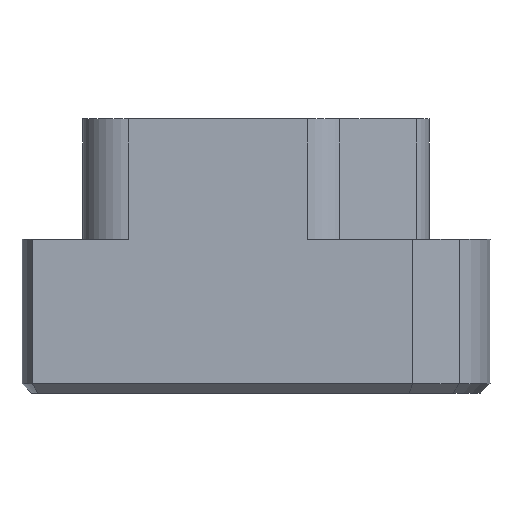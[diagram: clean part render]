
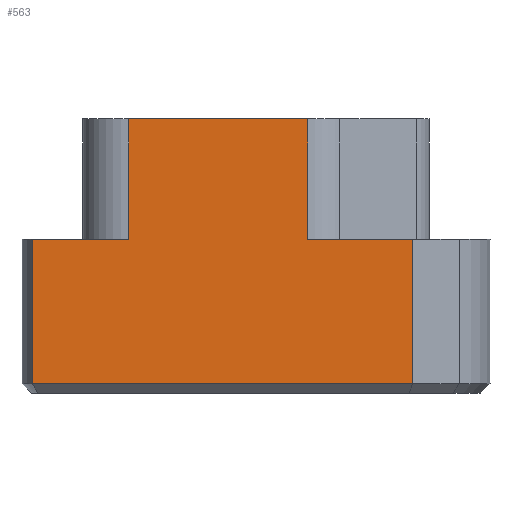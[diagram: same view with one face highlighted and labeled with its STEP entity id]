
A CAD part, front view. The second image highlights one B-rep face of the part: STEP entity #563.
In plain terms, the highlighted planar face has unit normal (0, -1, 0).
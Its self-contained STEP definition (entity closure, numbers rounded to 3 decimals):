
#42=DIRECTION('',(1.,0.,0.));
#43=VECTOR('',#42,5.879);
#44=CARTESIAN_POINT('',(-2.5,-4.,9.));
#45=LINE('',#44,#43);
#51=DIRECTION('',(-1.,0.,0.));
#52=VECTOR('',#51,3.45);
#53=CARTESIAN_POINT('',(6.828,-4.,5.05));
#54=LINE('',#53,#52);
#72=DIRECTION('',(-1.,0.,0.));
#73=VECTOR('',#72,3.162);
#74=CARTESIAN_POINT('',(-2.5,-4.,5.05));
#75=LINE('',#74,#73);
#94=DIRECTION('',(-1.,0.,0.));
#95=VECTOR('',#94,12.491);
#96=CARTESIAN_POINT('',(6.828,-4.,0.3));
#97=LINE('',#96,#95);
#98=DIRECTION('',(0.,0.,-1.));
#99=VECTOR('',#98,3.95);
#100=CARTESIAN_POINT('',(-2.5,-4.,9.));
#101=LINE('',#100,#99);
#102=DIRECTION('',(0.,0.,-1.));
#103=VECTOR('',#102,3.95);
#104=CARTESIAN_POINT('',(3.379,-4.,9.));
#105=LINE('',#104,#103);
#118=DIRECTION('',(0.,0.,-1.));
#119=VECTOR('',#118,4.75);
#120=CARTESIAN_POINT('',(6.828,-4.,5.05));
#121=LINE('',#120,#119);
#310=DIRECTION('',(0.,0.,-1.));
#311=VECTOR('',#310,4.75);
#312=CARTESIAN_POINT('',(-5.662,-4.,5.05));
#313=LINE('',#312,#311);
#351=CARTESIAN_POINT('',(-2.5,-4.,9.));
#353=VERTEX_POINT('',#351);
#354=CARTESIAN_POINT('',(3.379,-4.,9.));
#356=VERTEX_POINT('',#354);
#390=CARTESIAN_POINT('',(6.828,-4.,5.05));
#391=CARTESIAN_POINT('',(3.379,-4.,5.05));
#392=VERTEX_POINT('',#390);
#393=VERTEX_POINT('',#391);
#394=CARTESIAN_POINT('',(-2.5,-4.,5.05));
#395=CARTESIAN_POINT('',(-5.662,-4.,5.05));
#396=VERTEX_POINT('',#394);
#397=VERTEX_POINT('',#395);
#420=CARTESIAN_POINT('',(-5.662,-4.,0.3));
#421=VERTEX_POINT('',#420);
#434=CARTESIAN_POINT('',(6.828,-4.,0.3));
#435=VERTEX_POINT('',#434);
#544=CARTESIAN_POINT('',(-4.,-4.,0.));
#545=DIRECTION('',(0.,-1.,0.));
#546=DIRECTION('',(1.,0.,0.));
#547=AXIS2_PLACEMENT_3D('',#544,#545,#546);
#548=PLANE('',#547);
#550=ORIENTED_EDGE('',*,*,#549,.T.);
#552=ORIENTED_EDGE('',*,*,#551,.F.);
#553=ORIENTED_EDGE('',*,*,#526,.F.);
#554=ORIENTED_EDGE('',*,*,#488,.F.);
#555=ORIENTED_EDGE('',*,*,#473,.T.);
#557=ORIENTED_EDGE('',*,*,#556,.T.);
#558=ORIENTED_EDGE('',*,*,#498,.F.);
#560=ORIENTED_EDGE('',*,*,#559,.T.);
#561=EDGE_LOOP('',(#550,#552,#553,#554,#555,#557,#558,#560));
#562=FACE_OUTER_BOUND('',#561,.F.);
#563=ADVANCED_FACE('',(#562),#548,.T.);
#473=EDGE_CURVE('',#353,#356,#45,.T.);
#488=EDGE_CURVE('',#353,#396,#101,.T.);
#498=EDGE_CURVE('',#392,#393,#54,.T.);
#526=EDGE_CURVE('',#396,#397,#75,.T.);
#549=EDGE_CURVE('',#435,#421,#97,.T.);
#551=EDGE_CURVE('',#397,#421,#313,.T.);
#556=EDGE_CURVE('',#356,#393,#105,.T.);
#559=EDGE_CURVE('',#392,#435,#121,.T.);
